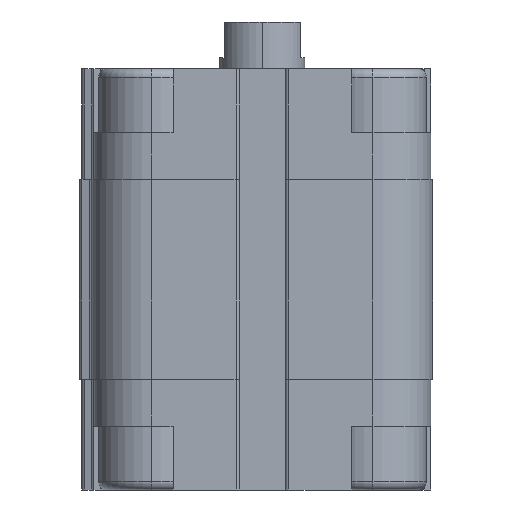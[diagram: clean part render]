
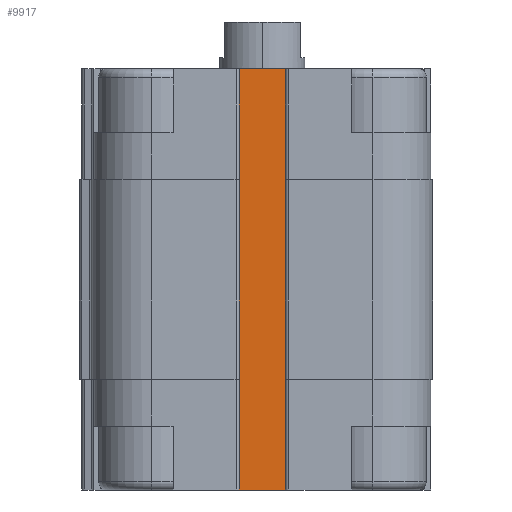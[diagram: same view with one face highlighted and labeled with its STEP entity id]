
A CAD part, left-side view. The second image highlights one B-rep face of the part: STEP entity #9917.
In plain terms, the highlighted planar face has unit normal (-1, 0, 0).
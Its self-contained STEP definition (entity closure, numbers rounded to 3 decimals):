
#160 = CARTESIAN_POINT ( 'NONE',  ( -15., 3., 0. ) ) ;
#163 = EDGE_CURVE ( 'NONE', #1316, #14256, #11436, .T. ) ;
#1316 = VERTEX_POINT ( 'NONE', #160 ) ;
#1377 = LINE ( 'NONE', #6901, #6839 ) ;
#1696 = CARTESIAN_POINT ( 'NONE',  ( -15., 3., 0. ) ) ;
#1712 = LINE ( 'NONE', #7321, #9002 ) ;
#3406 = CARTESIAN_POINT ( 'NONE',  ( -15., -3., -13. ) ) ;
#3594 = VECTOR ( 'NONE', #5933, 1000. ) ;
#3898 = VECTOR ( 'NONE', #9007, 1000. ) ;
#4683 = ORIENTED_EDGE ( 'NONE', *, *, #13534, .T. ) ;
#5013 = DIRECTION ( 'NONE',  ( -1., 0., 0. ) ) ;
#5693 = EDGE_CURVE ( 'NONE', #15682, #1316, #1377, .T. ) ;
#5933 = DIRECTION ( 'NONE',  ( 0., -1., 0. ) ) ;
#6839 = VECTOR ( 'NONE', #15510, 1000. ) ;
#6901 = CARTESIAN_POINT ( 'NONE',  ( -15., 3., -13. ) ) ;
#7059 = DIRECTION ( 'NONE',  ( 0., -1., 0. ) ) ;
#7107 = AXIS2_PLACEMENT_3D ( 'NONE', #10704, #5013, #16484 ) ;
#7321 = CARTESIAN_POINT ( 'NONE',  ( -15., 3., -49.5 ) ) ;
#7846 = VERTEX_POINT ( 'NONE', #14972 ) ;
#8349 = CARTESIAN_POINT ( 'NONE',  ( -15., 3., -49.5 ) ) ;
#9002 = VECTOR ( 'NONE', #7059, 1000. ) ;
#9007 = DIRECTION ( 'NONE',  ( 0., 0., 1. ) ) ;
#9321 = PLANE ( 'NONE',  #7107 ) ;
#9917 = ADVANCED_FACE ( 'NONE', ( #17858 ), #9321, .T. ) ;
#10400 = EDGE_CURVE ( 'NONE', #7846, #14256, #15981, .T. ) ;
#10704 = CARTESIAN_POINT ( 'NONE',  ( -15., 3., -13. ) ) ;
#11113 = ORIENTED_EDGE ( 'NONE', *, *, #10400, .T. ) ;
#11436 = LINE ( 'NONE', #1696, #3594 ) ;
#13109 = EDGE_LOOP ( 'NONE', ( #14680, #14706, #4683, #11113 ) ) ;
#13394 = CARTESIAN_POINT ( 'NONE',  ( -15., -3., 0. ) ) ;
#13534 = EDGE_CURVE ( 'NONE', #15682, #7846, #1712, .T. ) ;
#14256 = VERTEX_POINT ( 'NONE', #13394 ) ;
#14680 = ORIENTED_EDGE ( 'NONE', *, *, #163, .F. ) ;
#14706 = ORIENTED_EDGE ( 'NONE', *, *, #5693, .F. ) ;
#14972 = CARTESIAN_POINT ( 'NONE',  ( -15., -3., -49.5 ) ) ;
#15510 = DIRECTION ( 'NONE',  ( 0., 0., 1. ) ) ;
#15682 = VERTEX_POINT ( 'NONE', #8349 ) ;
#15981 = LINE ( 'NONE', #3406, #3898 ) ;
#16484 = DIRECTION ( 'NONE',  ( 0., -1., 0. ) ) ;
#17858 = FACE_OUTER_BOUND ( 'NONE', #13109, .T. ) ;
